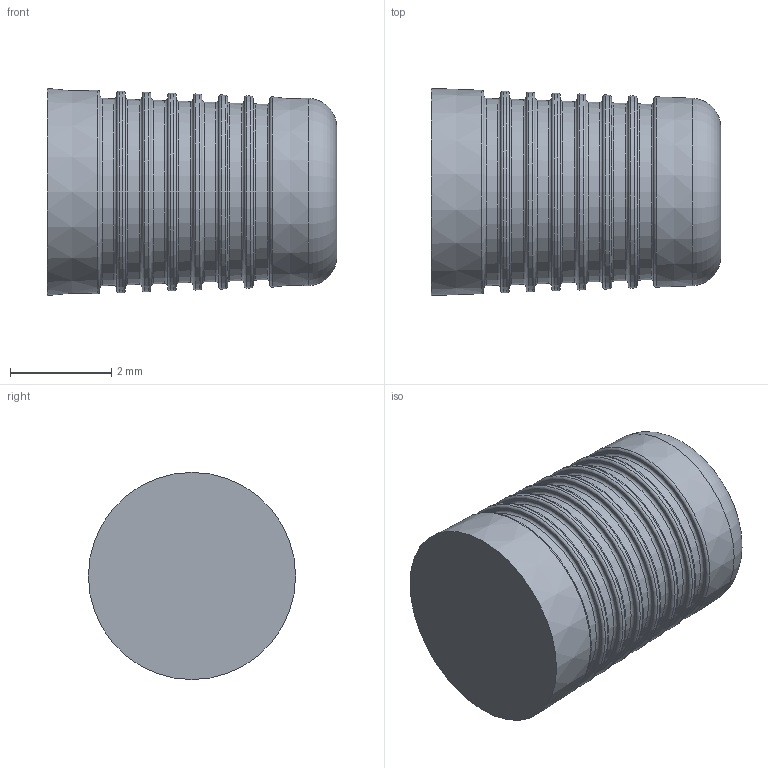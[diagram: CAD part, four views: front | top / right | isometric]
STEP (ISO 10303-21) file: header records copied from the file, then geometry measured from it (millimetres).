
FILE_DESCRIPTION(/* description */ ('LEE BETAPLUG, 6000 SERIES, 4mm'),/* implementation_level */ '2;1');
FILE_NAME(/* name */ '\\ABSOLUTE\SmWork\Vernon\PLBA0402604S.stp',/* time_stamp */ '2021-03-23T14:03:50-04:00',/* author */ ('VernonJ'),/* organization */ (''),/* preprocessor_version */ 'ST-DEVELOPER v18',/* originating_system */ 'Autodesk Inventor 2020',/* authorisation */ '');
FILE_SCHEMA (('AUTOMOTIVE_DESIGN { 1 0 10303 214 3 1 1 }'));
Length unit declared in the file: millimetre
Products named in the file (1): PLBA0402604S
Bounding box: 5.71 x 4.09 x 4.09 mm (x, y, z)
Volume: 62.6 mm3; surface area: 106.1 mm2
Topology: 1 solids, 1 shells, 60 faces, 233 edges, 175 vertices
Faces by surface type: cone 29, torus 29, plane 2
Entity records: 2714 total; most frequent: DIRECTION 559, CARTESIAN_POINT 469, ORIENTED_EDGE 466, AXIS2_PLACEMENT_3D 265, EDGE_CURVE 233, CIRCLE 204, VERTEX_POINT 175, FACE_OUTER_BOUND 60
